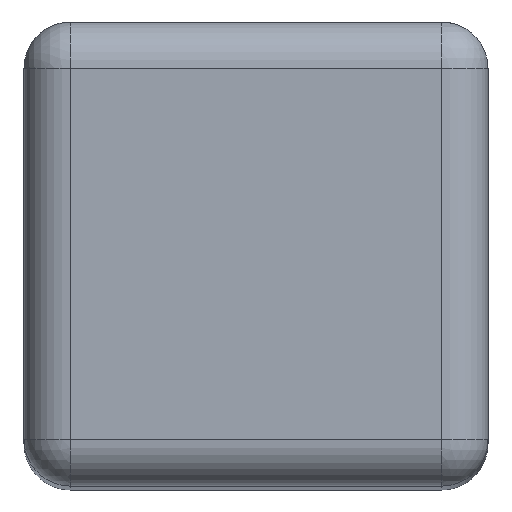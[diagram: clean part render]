
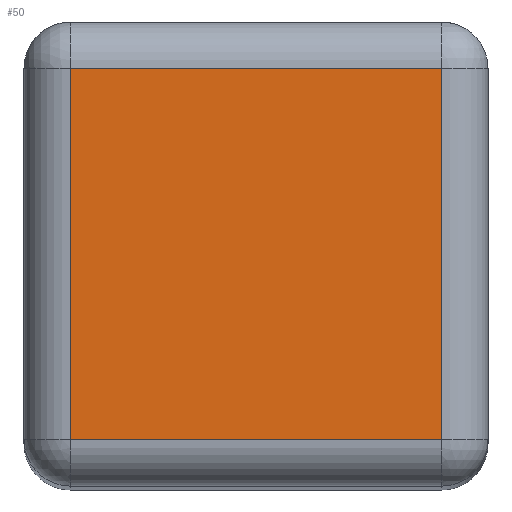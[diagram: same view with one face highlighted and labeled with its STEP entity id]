
A CAD part, top view. The second image highlights one B-rep face of the part: STEP entity #50.
In plain terms, the highlighted planar face has unit normal (0, 0, 1).
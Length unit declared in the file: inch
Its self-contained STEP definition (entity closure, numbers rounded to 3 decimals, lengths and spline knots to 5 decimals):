
#22 = AXIS2_PLACEMENT_3D ( 'NONE', #134, #585, #538 ) ;
#50 = ADVANCED_FACE ( 'NONE', ( #329 ), #183, .F. ) ;
#74 = VERTEX_POINT ( 'NONE', #326 ) ;
#89 = DIRECTION ( 'NONE',  ( 0., 1., 0. ) ) ;
#92 = VECTOR ( 'NONE', #477, 39.37008 ) ;
#93 = EDGE_CURVE ( 'NONE', #114, #74, #283, .T. ) ;
#103 = CARTESIAN_POINT ( 'NONE',  ( -0.0315, -0.0315, 0.19685 ) ) ;
#114 = VERTEX_POINT ( 'NONE', #186 ) ;
#127 = CARTESIAN_POINT ( 'NONE',  ( 0.0315, 0.03937, 0.19685 ) ) ;
#129 = DIRECTION ( 'NONE',  ( 0., -1., 0. ) ) ;
#134 = CARTESIAN_POINT ( 'NONE',  ( 0., 0., 0.19685 ) ) ;
#179 = ORIENTED_EDGE ( 'NONE', *, *, #93, .T. ) ;
#183 = PLANE ( 'NONE',  #22 ) ;
#186 = CARTESIAN_POINT ( 'NONE',  ( 0.0315, -0.0315, 0.19685 ) ) ;
#190 = LINE ( 'NONE', #277, #92 ) ;
#192 = CARTESIAN_POINT ( 'NONE',  ( -0.03937, 0.0315, 0.19685 ) ) ;
#215 = VECTOR ( 'NONE', #89, 39.37008 ) ;
#226 = LINE ( 'NONE', #635, #351 ) ;
#244 = VERTEX_POINT ( 'NONE', #468 ) ;
#273 = ORIENTED_EDGE ( 'NONE', *, *, #649, .T. ) ;
#277 = CARTESIAN_POINT ( 'NONE',  ( 0.03937, -0.0315, 0.19685 ) ) ;
#283 = LINE ( 'NONE', #127, #215 ) ;
#287 = EDGE_CURVE ( 'NONE', #244, #526, #226, .T. ) ;
#303 = EDGE_CURVE ( 'NONE', #526, #114, #190, .T. ) ;
#326 = CARTESIAN_POINT ( 'NONE',  ( 0.0315, 0.0315, 0.19685 ) ) ;
#327 = ORIENTED_EDGE ( 'NONE', *, *, #303, .T. ) ;
#329 = FACE_OUTER_BOUND ( 'NONE', #452, .T. ) ;
#333 = DIRECTION ( 'NONE',  ( -1., 0., 0. ) ) ;
#351 = VECTOR ( 'NONE', #129, 39.37008 ) ;
#362 = ORIENTED_EDGE ( 'NONE', *, *, #287, .T. ) ;
#446 = LINE ( 'NONE', #192, #560 ) ;
#452 = EDGE_LOOP ( 'NONE', ( #362, #327, #179, #273 ) ) ;
#468 = CARTESIAN_POINT ( 'NONE',  ( -0.0315, 0.0315, 0.19685 ) ) ;
#477 = DIRECTION ( 'NONE',  ( 1., 0., 0. ) ) ;
#526 = VERTEX_POINT ( 'NONE', #103 ) ;
#538 = DIRECTION ( 'NONE',  ( -1., 0., 0. ) ) ;
#560 = VECTOR ( 'NONE', #333, 39.37008 ) ;
#585 = DIRECTION ( 'NONE',  ( 0., 0., -1. ) ) ;
#635 = CARTESIAN_POINT ( 'NONE',  ( -0.0315, -0.03937, 0.19685 ) ) ;
#649 = EDGE_CURVE ( 'NONE', #74, #244, #446, .T. ) ;
